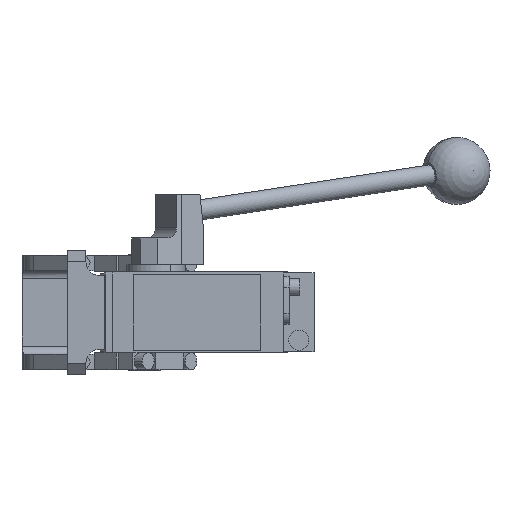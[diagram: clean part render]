
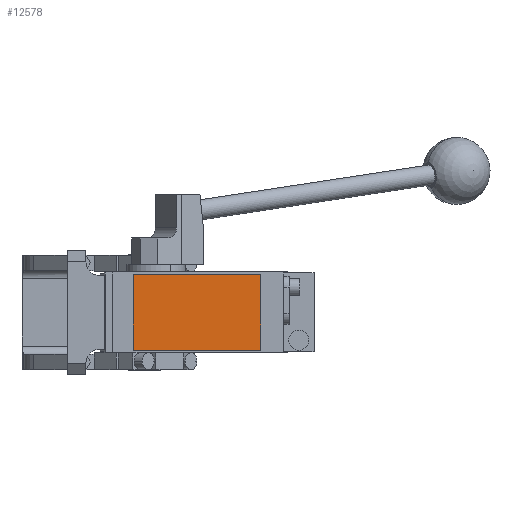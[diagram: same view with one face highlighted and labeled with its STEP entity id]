
A CAD part, front view. The second image highlights one B-rep face of the part: STEP entity #12578.
In plain terms, the highlighted planar face has unit normal (0, -1, 0).
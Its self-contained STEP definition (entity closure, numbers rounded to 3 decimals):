
#995 = PLANE ( 'NONE',  #14037 ) ;
#1294 = ORIENTED_EDGE ( 'NONE', *, *, #12756, .T. ) ;
#2115 = EDGE_CURVE ( 'NONE', #6277, #14427, #7274, .T. ) ;
#2427 = CARTESIAN_POINT ( 'NONE',  ( 69., -280.5, 22.5 ) ) ;
#3439 = CARTESIAN_POINT ( 'NONE',  ( -7., -280.5, 22.5 ) ) ;
#3584 = ORIENTED_EDGE ( 'NONE', *, *, #10432, .T. ) ;
#3702 = LINE ( 'NONE', #8895, #9493 ) ;
#3784 = VECTOR ( 'NONE', #15780, 1000. ) ;
#4449 = CARTESIAN_POINT ( 'NONE',  ( 69., -280.5, -22.5 ) ) ;
#4660 = CARTESIAN_POINT ( 'NONE',  ( -7., -280.5, -22.5 ) ) ;
#5153 = CARTESIAN_POINT ( 'NONE',  ( -7., -280.5, 22.5 ) ) ;
#5450 = ORIENTED_EDGE ( 'NONE', *, *, #10130, .T. ) ;
#5591 = CARTESIAN_POINT ( 'NONE',  ( -7., -280.5, -22.5 ) ) ;
#5796 = LINE ( 'NONE', #4660, #3784 ) ;
#5974 = DIRECTION ( 'NONE',  ( 0., 0., -1. ) ) ;
#6277 = VERTEX_POINT ( 'NONE', #10776 ) ;
#6623 = VERTEX_POINT ( 'NONE', #4449 ) ;
#7101 = DIRECTION ( 'NONE',  ( -1., 0., 0. ) ) ;
#7274 = LINE ( 'NONE', #3439, #14461 ) ;
#7289 = DIRECTION ( 'NONE',  ( 0., -1., 0. ) ) ;
#8403 = CARTESIAN_POINT ( 'NONE',  ( 0., -280.5, 0. ) ) ;
#8639 = VERTEX_POINT ( 'NONE', #5591 ) ;
#8895 = CARTESIAN_POINT ( 'NONE',  ( -7., -280.5, 22.5 ) ) ;
#9123 = VECTOR ( 'NONE', #9888, 1000. ) ;
#9493 = VECTOR ( 'NONE', #9851, 1000. ) ;
#9851 = DIRECTION ( 'NONE',  ( 0., 0., -1. ) ) ;
#9888 = DIRECTION ( 'NONE',  ( 0., 0., 1. ) ) ;
#10060 = EDGE_LOOP ( 'NONE', ( #5450, #3584, #1294, #14710 ) ) ;
#10130 = EDGE_CURVE ( 'NONE', #14427, #8639, #3702, .T. ) ;
#10432 = EDGE_CURVE ( 'NONE', #8639, #6623, #5796, .T. ) ;
#10776 = CARTESIAN_POINT ( 'NONE',  ( 69., -280.5, 22.5 ) ) ;
#10822 = FACE_OUTER_BOUND ( 'NONE', #10060, .T. ) ;
#12578 = ADVANCED_FACE ( 'NONE', ( #10822 ), #995, .T. ) ;
#12756 = EDGE_CURVE ( 'NONE', #6623, #6277, #14780, .T. ) ;
#14037 = AXIS2_PLACEMENT_3D ( 'NONE', #8403, #7289, #5974 ) ;
#14427 = VERTEX_POINT ( 'NONE', #5153 ) ;
#14461 = VECTOR ( 'NONE', #7101, 1000. ) ;
#14710 = ORIENTED_EDGE ( 'NONE', *, *, #2115, .T. ) ;
#14780 = LINE ( 'NONE', #2427, #9123 ) ;
#15780 = DIRECTION ( 'NONE',  ( 1., 0., 0. ) ) ;
